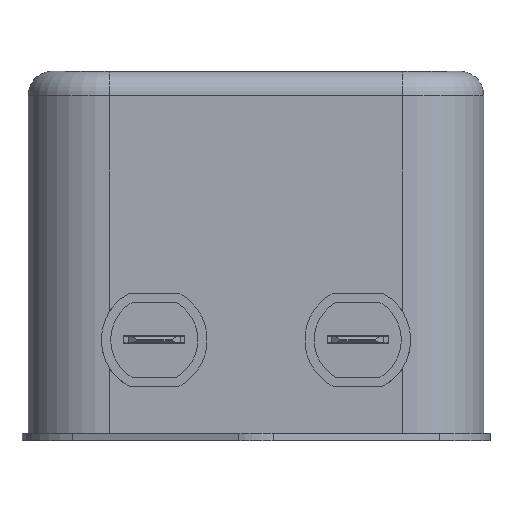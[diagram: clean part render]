
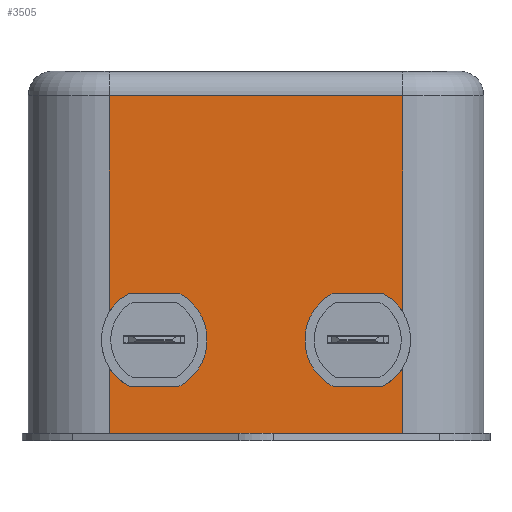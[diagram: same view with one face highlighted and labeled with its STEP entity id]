
A CAD part, left-side view. The second image highlights one B-rep face of the part: STEP entity #3505.
In plain terms, the highlighted planar face has unit normal (-1, 0, 0).
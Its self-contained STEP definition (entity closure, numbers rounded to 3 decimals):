
#1725=CARTESIAN_POINT('',(-60.538,52.845,34.729));
#1726=VERTEX_POINT('',#1725);
#1727=CARTESIAN_POINT('',(-60.538,52.845,41.658));
#1728=VERTEX_POINT('',#1727);
#1911=CARTESIAN_POINT('',(-60.538,44.314,43.943));
#1912=VERTEX_POINT('',#1911);
#1913=CARTESIAN_POINT('',(-60.538,44.314,32.443));
#1914=VERTEX_POINT('',#1913);
#1915=CARTESIAN_POINT('',(-60.538,47.345,38.193));
#1916=DIRECTION('',(1.0,0.,0.));
#1917=DIRECTION('',(0.,-0.466,-0.885));
#1918=AXIS2_PLACEMENT_3D('',#1915,#1916,#1917);
#1919=CIRCLE('',#1918,6.5);
#1920=EDGE_CURVE('',#1912,#1914,#1919,.T.);
#1953=CARTESIAN_POINT('',(-60.538,50.376,32.443));
#1954=VERTEX_POINT('',#1953);
#1955=CARTESIAN_POINT('',(-60.538,44.314,32.443));
#1956=DIRECTION('',(0.0,1.0,0.0));
#1957=VECTOR('',#1956,6.062);
#1958=LINE('',#1955,#1957);
#1959=EDGE_CURVE('',#1914,#1954,#1958,.T.);
#2005=CARTESIAN_POINT('',(-60.538,47.345,38.193));
#2006=DIRECTION('',(1.0,0.,0.));
#2007=DIRECTION('',(0.,0.466,0.885));
#2008=AXIS2_PLACEMENT_3D('',#2005,#2006,#2007);
#2009=CIRCLE('',#2008,6.5);
#2010=EDGE_CURVE('',#1954,#1726,#2009,.T.);
#2022=CARTESIAN_POINT('',(-60.538,50.376,43.943));
#2023=VERTEX_POINT('',#2022);
#2030=CARTESIAN_POINT('',(-60.538,47.345,38.193));
#2031=DIRECTION('',(1.0,0.,0.));
#2032=DIRECTION('',(0.,0.466,0.885));
#2033=AXIS2_PLACEMENT_3D('',#2030,#2031,#2032);
#2034=CIRCLE('',#2033,6.5);
#2035=EDGE_CURVE('',#1728,#2023,#2034,.T.);
#2046=CARTESIAN_POINT('',(-60.538,50.376,43.943));
#2047=DIRECTION('',(0.0,-1.0,0.0));
#2048=VECTOR('',#2047,6.062);
#2049=LINE('',#2046,#2048);
#2050=EDGE_CURVE('',#2023,#1912,#2049,.T.);
#2484=CARTESIAN_POINT('',(-60.538,16.845,41.658));
#2485=VERTEX_POINT('',#2484);
#2486=CARTESIAN_POINT('',(-60.538,16.845,34.729));
#2487=VERTEX_POINT('',#2486);
#3262=CARTESIAN_POINT('',(-60.538,19.314,43.943));
#3263=VERTEX_POINT('',#3262);
#3264=CARTESIAN_POINT('',(-60.538,22.345,38.193));
#3265=DIRECTION('',(1.0,0.,0.));
#3266=DIRECTION('',(0.,-0.466,-0.885));
#3267=AXIS2_PLACEMENT_3D('',#3264,#3265,#3266);
#3268=CIRCLE('',#3267,6.5);
#3269=EDGE_CURVE('',#3263,#2485,#3268,.T.);
#3288=CARTESIAN_POINT('',(-60.538,19.314,32.443));
#3289=VERTEX_POINT('',#3288);
#3296=CARTESIAN_POINT('',(-60.538,22.345,38.193));
#3297=DIRECTION('',(1.0,0.,0.));
#3298=DIRECTION('',(0.,-0.466,-0.885));
#3299=AXIS2_PLACEMENT_3D('',#3296,#3297,#3298);
#3300=CIRCLE('',#3299,6.5);
#3301=EDGE_CURVE('',#2487,#3289,#3300,.T.);
#3312=CARTESIAN_POINT('',(-60.538,25.376,32.443));
#3313=VERTEX_POINT('',#3312);
#3314=CARTESIAN_POINT('',(-60.538,19.314,32.443));
#3315=DIRECTION('',(0.0,1.0,0.0));
#3316=VECTOR('',#3315,6.062);
#3317=LINE('',#3314,#3316);
#3318=EDGE_CURVE('',#3289,#3313,#3317,.T.);
#3364=CARTESIAN_POINT('',(-60.538,25.376,43.943));
#3365=VERTEX_POINT('',#3364);
#3366=CARTESIAN_POINT('',(-60.538,22.345,38.193));
#3367=DIRECTION('',(1.0,0.,0.));
#3368=DIRECTION('',(0.,0.466,0.885));
#3369=AXIS2_PLACEMENT_3D('',#3366,#3367,#3368);
#3370=CIRCLE('',#3369,6.5);
#3371=EDGE_CURVE('',#3313,#3365,#3370,.T.);
#3397=CARTESIAN_POINT('',(-60.538,25.376,43.943));
#3398=DIRECTION('',(0.0,-1.0,0.0));
#3399=VECTOR('',#3398,6.062);
#3400=LINE('',#3397,#3399);
#3401=EDGE_CURVE('',#3365,#3263,#3400,.T.);
#3444=CARTESIAN_POINT('',(-60.538,62.845,71.193));
#3445=DIRECTION('',(-1.0,0.0,0.0));
#3446=DIRECTION('',(0.0,0.0,1.0));
#3447=AXIS2_PLACEMENT_3D('',#3444,#3445,#3446);
#3448=PLANE('',#3447);
#3449=ORIENTED_EDGE('',*,*,#2010,.T.);
#3450=CARTESIAN_POINT('',(-60.538,52.845,26.693));
#3451=VERTEX_POINT('',#3450);
#3452=CARTESIAN_POINT('',(-60.538,52.845,26.693));
#3453=DIRECTION('',(0.0,0.0,1.0));
#3454=VECTOR('',#3453,8.036);
#3455=LINE('',#3452,#3454);
#3456=EDGE_CURVE('',#3451,#1726,#3455,.T.);
#3457=ORIENTED_EDGE('',*,*,#3456,.F.);
#3458=CARTESIAN_POINT('',(-60.538,16.845,26.693));
#3459=VERTEX_POINT('',#3458);
#3460=CARTESIAN_POINT('',(-60.538,52.845,26.693));
#3461=DIRECTION('',(0.0,-1.0,0.0));
#3462=VECTOR('',#3461,36.0);
#3463=LINE('',#3460,#3462);
#3464=EDGE_CURVE('',#3451,#3459,#3463,.T.);
#3465=ORIENTED_EDGE('',*,*,#3464,.T.);
#3466=CARTESIAN_POINT('',(-60.538,16.845,34.729));
#3467=DIRECTION('',(0.0,0.0,-1.0));
#3468=VECTOR('',#3467,8.036);
#3469=LINE('',#3466,#3468);
#3470=EDGE_CURVE('',#2487,#3459,#3469,.T.);
#3471=ORIENTED_EDGE('',*,*,#3470,.F.);
#3472=ORIENTED_EDGE('',*,*,#3301,.T.);
#3473=ORIENTED_EDGE('',*,*,#3318,.T.);
#3474=ORIENTED_EDGE('',*,*,#3371,.T.);
#3475=ORIENTED_EDGE('',*,*,#3401,.T.);
#3476=ORIENTED_EDGE('',*,*,#3269,.T.);
#3477=CARTESIAN_POINT('',(-60.538,16.845,68.193));
#3478=VERTEX_POINT('',#3477);
#3479=CARTESIAN_POINT('',(-60.538,16.845,68.193));
#3480=DIRECTION('',(0.0,0.0,-1.0));
#3481=VECTOR('',#3480,26.536);
#3482=LINE('',#3479,#3481);
#3483=EDGE_CURVE('',#3478,#2485,#3482,.T.);
#3484=ORIENTED_EDGE('',*,*,#3483,.F.);
#3485=CARTESIAN_POINT('',(-60.538,52.845,68.193));
#3486=VERTEX_POINT('',#3485);
#3487=CARTESIAN_POINT('',(-60.538,52.845,68.193));
#3488=DIRECTION('',(0.0,-1.0,0.0));
#3489=VECTOR('',#3488,36.0);
#3490=LINE('',#3487,#3489);
#3491=EDGE_CURVE('',#3486,#3478,#3490,.T.);
#3492=ORIENTED_EDGE('',*,*,#3491,.F.);
#3493=CARTESIAN_POINT('',(-60.538,52.845,41.658));
#3494=DIRECTION('',(0.0,0.0,1.0));
#3495=VECTOR('',#3494,26.536);
#3496=LINE('',#3493,#3495);
#3497=EDGE_CURVE('',#1728,#3486,#3496,.T.);
#3498=ORIENTED_EDGE('',*,*,#3497,.F.);
#3499=ORIENTED_EDGE('',*,*,#2035,.T.);
#3500=ORIENTED_EDGE('',*,*,#2050,.T.);
#3501=ORIENTED_EDGE('',*,*,#1920,.T.);
#3502=ORIENTED_EDGE('',*,*,#1959,.T.);
#3503=EDGE_LOOP('',(#3449,#3457,#3465,#3471,#3472,#3473,#3474,#3475,#3476,#3484,#3492,#3498,#3499,#3500,#3501,#3502));
#3504=FACE_OUTER_BOUND('',#3503,.T.);
#3505=ADVANCED_FACE('',(#3504),#3448,.T.);
